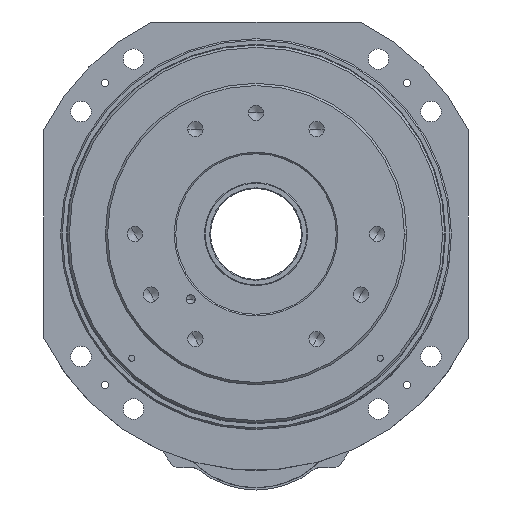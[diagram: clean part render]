
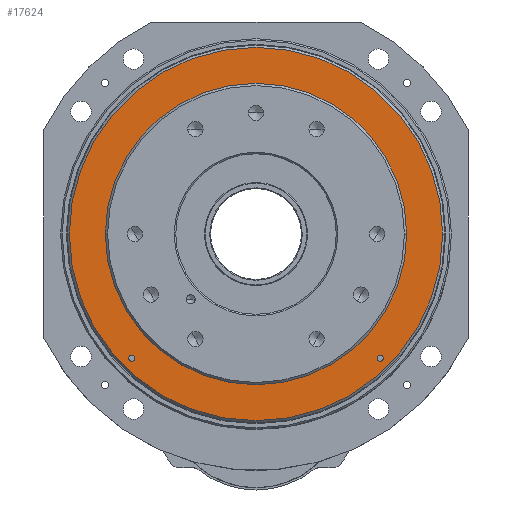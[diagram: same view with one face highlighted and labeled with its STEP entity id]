
A CAD part, left-side view. The second image highlights one B-rep face of the part: STEP entity #17624.
In plain terms, the highlighted planar face has unit normal (-1, 0, 0).
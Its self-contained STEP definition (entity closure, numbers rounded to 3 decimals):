
#865=CARTESIAN_POINT('',(-111.6,161.25,81.));
#866=VERTEX_POINT('',#865);
#882=CARTESIAN_POINT('',(-111.6,-85.25,81.));
#883=VERTEX_POINT('',#882);
#890=CARTESIAN_POINT('',(-111.6,38.,81.));
#891=DIRECTION('',(1.0,0.0,0.0));
#892=DIRECTION('',(0.0,1.0,0.0));
#893=AXIS2_PLACEMENT_3D('',#890,#891,#892);
#894=CIRCLE('',#893,123.25);
#895=EDGE_CURVE('',#883,#866,#894,.T.);
#2104=CARTESIAN_POINT('',(-111.6,137.5,81.));
#2105=VERTEX_POINT('',#2104);
#2112=CARTESIAN_POINT('',(-111.6,-61.5,81.));
#2113=VERTEX_POINT('',#2112);
#2114=CARTESIAN_POINT('',(-111.6,38.,81.));
#2115=DIRECTION('',(1.0,0.0,0.0));
#2116=DIRECTION('',(0.0,1.0,0.0));
#2117=AXIS2_PLACEMENT_3D('',#2114,#2115,#2116);
#2118=CIRCLE('',#2117,99.5);
#2119=EDGE_CURVE('',#2113,#2105,#2118,.T.);
#3054=CARTESIAN_POINT('',(-111.6,117.957,-1.024));
#3055=VERTEX_POINT('',#3054);
#3064=CARTESIAN_POINT('',(-111.6,122.091,-1.024));
#3065=VERTEX_POINT('',#3064);
#3066=CARTESIAN_POINT('',(-111.6,120.024,-1.024));
#3067=DIRECTION('',(1.0,0.0,0.0));
#3068=DIRECTION('',(0.0,-1.0,0.0));
#3069=AXIS2_PLACEMENT_3D('',#3066,#3067,#3068);
#3070=CIRCLE('',#3069,2.067);
#3071=EDGE_CURVE('',#3065,#3055,#3070,.T.);
#3126=CARTESIAN_POINT('',(-111.6,-41.957,-1.024));
#3127=VERTEX_POINT('',#3126);
#3136=CARTESIAN_POINT('',(-111.6,-46.091,-1.024));
#3137=VERTEX_POINT('',#3136);
#3138=CARTESIAN_POINT('',(-111.6,-44.024,-1.024));
#3139=DIRECTION('',(1.0,0.0,0.0));
#3140=DIRECTION('',(0.0,1.0,0.0));
#3141=AXIS2_PLACEMENT_3D('',#3138,#3139,#3140);
#3142=CIRCLE('',#3141,2.067);
#3143=EDGE_CURVE('',#3137,#3127,#3142,.T.);
#15457=CARTESIAN_POINT('',(-111.6,-44.024,-1.024));
#15458=DIRECTION('',(1.0,0.0,0.0));
#15459=DIRECTION('',(0.0,1.0,0.0));
#15460=AXIS2_PLACEMENT_3D('',#15457,#15458,#15459);
#15461=CIRCLE('',#15460,2.067);
#15462=EDGE_CURVE('',#3127,#3137,#15461,.T.);
#15476=CARTESIAN_POINT('',(-111.6,120.024,-1.024));
#15477=DIRECTION('',(1.0,0.0,0.0));
#15478=DIRECTION('',(0.0,-1.0,0.0));
#15479=AXIS2_PLACEMENT_3D('',#15476,#15477,#15478);
#15480=CIRCLE('',#15479,2.067);
#15481=EDGE_CURVE('',#3055,#3065,#15480,.T.);
#16323=CARTESIAN_POINT('',(-111.6,38.,81.));
#16324=DIRECTION('',(1.0,0.0,0.0));
#16325=DIRECTION('',(0.0,1.0,0.0));
#16326=AXIS2_PLACEMENT_3D('',#16323,#16324,#16325);
#16327=CIRCLE('',#16326,99.5);
#16328=EDGE_CURVE('',#2105,#2113,#16327,.T.);
#17597=CARTESIAN_POINT('',(-111.6,38.,81.));
#17598=DIRECTION('',(1.0,0.0,0.0));
#17599=DIRECTION('',(0.0,1.0,0.0));
#17600=AXIS2_PLACEMENT_3D('',#17597,#17598,#17599);
#17601=PLANE('',#17600);
#17602=ORIENTED_EDGE('',*,*,#895,.F.);
#17603=CARTESIAN_POINT('',(-111.6,38.,81.));
#17604=DIRECTION('',(1.0,0.0,0.0));
#17605=DIRECTION('',(0.0,1.0,0.0));
#17606=AXIS2_PLACEMENT_3D('',#17603,#17604,#17605);
#17607=CIRCLE('',#17606,123.25);
#17608=EDGE_CURVE('',#866,#883,#17607,.T.);
#17609=ORIENTED_EDGE('',*,*,#17608,.F.);
#17610=EDGE_LOOP('',(#17602,#17609));
#17611=FACE_OUTER_BOUND('',#17610,.T.);
#17612=ORIENTED_EDGE('',*,*,#2119,.T.);
#17613=ORIENTED_EDGE('',*,*,#16328,.T.);
#17614=EDGE_LOOP('',(#17612,#17613));
#17615=FACE_BOUND('',#17614,.T.);
#17616=ORIENTED_EDGE('',*,*,#3143,.T.);
#17617=ORIENTED_EDGE('',*,*,#15462,.T.);
#17618=EDGE_LOOP('',(#17616,#17617));
#17619=FACE_BOUND('',#17618,.T.);
#17620=ORIENTED_EDGE('',*,*,#3071,.T.);
#17621=ORIENTED_EDGE('',*,*,#15481,.T.);
#17622=EDGE_LOOP('',(#17620,#17621));
#17623=FACE_BOUND('',#17622,.T.);
#17624=ADVANCED_FACE('',(#17611,#17615,#17619,#17623),#17601,.F.);
